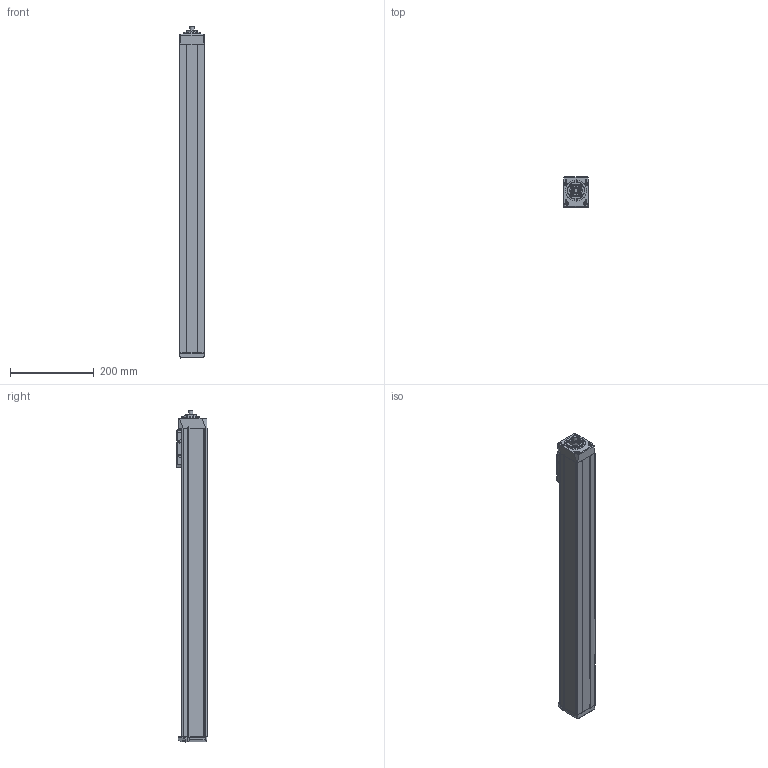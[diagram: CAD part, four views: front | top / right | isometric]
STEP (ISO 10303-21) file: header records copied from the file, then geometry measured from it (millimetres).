
FILE_DESCRIPTION(/* description */ ('STEP AP214'),/* implementation_level */ '2;1');
FILE_NAME(/* name */ 'MGBS 60 1210 600(0)',/* time_stamp */ '2023-04-17T13:20:09+02:00',/* author */ ('License CC BY-ND 4.0'),/* organization */ ('CADENAS'),/* preprocessor_version */ 'ST-DEVELOPER v19.3',/* originating_system */ 'PARTsolutions',/* authorisation */ ' ');
FILE_SCHEMA (('AUTOMOTIVE_DESIGN {1 0 10303 214 3 1 1}'));
Length unit declared in the file: millimetre
Products named in the file (6): MGBS 60 1210 600(0); MGBS 60 600_protection_strip; MGBS 60_carriage; MGBS 60_end_block; MGBS 60 600_profile; MGBS 60_drive_block
Assembly tree (5 placements, depth 2):
  MGBS 60 1210 600(0)
    MGBS 60 600_protection_strip
    MGBS 60_carriage
    MGBS 60_end_block
    MGBS 60 600_profile
    MGBS 60_drive_block
Bounding box: 60 x 72 x 792 mm (x, y, z)
Volume: 2725117.3 mm3; surface area: 336187.4 mm2
Topology: 5 solids, 5 shells, 694 faces, 1756 edges, 1135 vertices
Faces by surface type: plane 366, cylinder 144, cone 97, bspline 62, torus 23, sphere 2
Full cylindrical faces by diameter (mm): 2.459 x2, 2.46 x2, 3.242 x4, 4 x14, 4.134 x8, 4.8 x2, 5 x2, 5.5 x4, 7 x8, 7.6 x4, 8 x2, 10 x1, 11 x3, 23.8 x1, 30 x1, 42 x2, 50.2 x1
Entity records: 24817 total; most frequent: CARTESIAN_POINT 4104, DIRECTION 3372, ORIENTED_EDGE 3194, EDGE_CURVE 1597, AXIS2_PLACEMENT_3D 1197, VERTEX_POINT 1113, LINE 978, VECTOR 978
